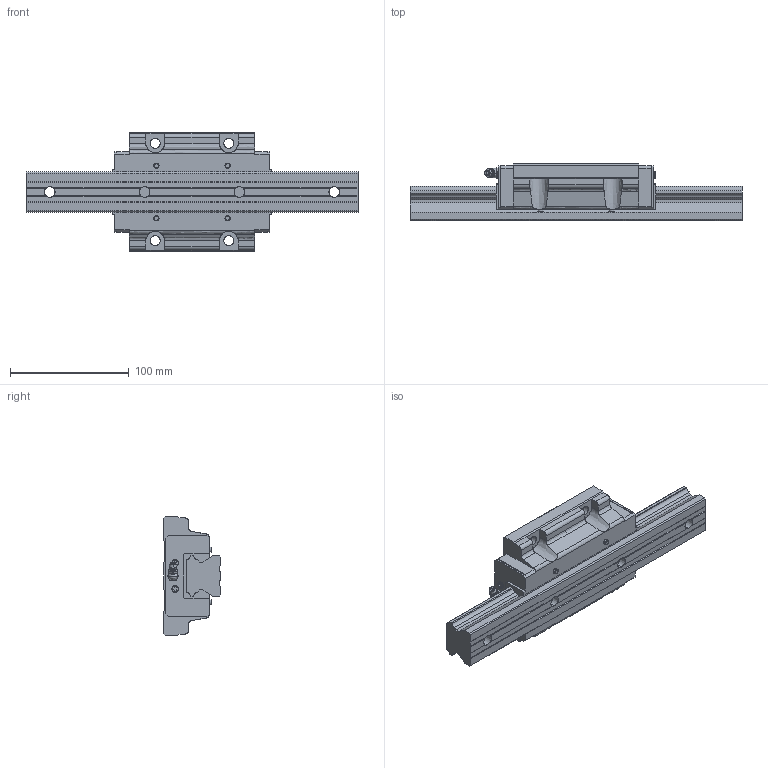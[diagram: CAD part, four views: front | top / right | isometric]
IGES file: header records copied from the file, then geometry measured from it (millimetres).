
Start section: SolidWorks IGES file using analytic representation for surfaces
Global section: file name: D:\Qsync\EOS Design B.V\Projecten\LM Systems\Models HSV\FINISHED\HSR35LCSSC.IGS; native system: SolidWorks 2016; preprocessor: SolidWorks 2016; author: EOS; date: 160329.133757; units: millimetre
Bounding box: 280 x 48 x 100 mm (x, y, z)
Surface area: 90047.7 mm2 (no closed solid volume)
Topology: 0 solids, 0 shells, 343 faces, 3972 edges, 3964 vertices
Faces by surface type: bspline 239, revolution 104
